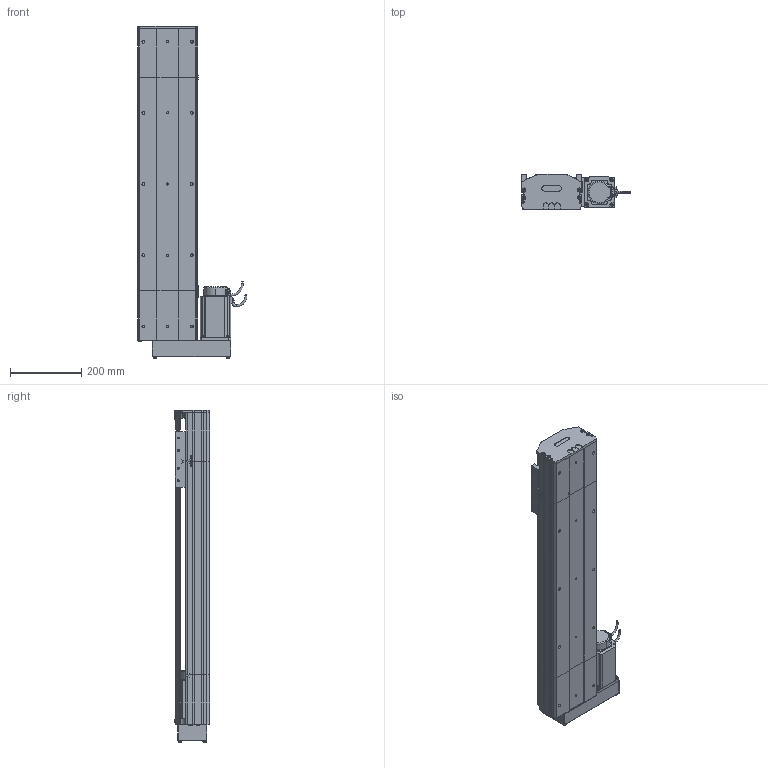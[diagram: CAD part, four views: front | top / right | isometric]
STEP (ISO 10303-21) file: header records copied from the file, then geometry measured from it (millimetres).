
FILE_DESCRIPTION (( 'STEP AP214' ), '1' );
FILE_NAME ('D17 TSH BL S600.STEP', '2010-06-30T06:38:29', ( 'Christophe Gaillard' ), ( 'SGA' ), 'SwSTEP 2.0', 'SolidWorks 2010', '' );
FILE_SCHEMA (( 'AUTOMOTIVE_DESIGN' ));
Length unit declared in the file: millimetre
Products named in the file (33): vis M5 L12_Default; guide D17; Chariot D17; chariot D17S_Default; Cvis M5 L70_Default; Conecteur2_Default; codeur 90BLDC125-640; corps 90BLDC125A-640; renvoi BL_Default; Vis M5 L16-2_Default; Conecteur_Default; Moteur motionking 90BLDC125A-640; vis M5 L5_Default; avant 90BLDC125A-640; Arbre+rail head D17; arbre + rail D17 Course 600 ; course 600 D17_Default; D17 TSH BL S600; Tail D17_Default; couvercle D17 course L600_Default; corp D17 600_Default; tete d''axe bas D17; plaque de  bout tail D17_Default; corpl tail D17_Default; couvercle D17_Default; Arbre+rail tail D17; tete d''axe haut D17; head BL_Default; vis M5 L25_Default; vis M5 L8 90°_Default; plaque de  bout BM head D17_Default; couvercle D17 head_Default; corpl head D17 BM_Default
Assembly tree (55 placements, depth 4):
  D17 TSH BL S600
    Tail D17_Default
      tete d''axe haut D17
      vis M5 L12_Default  x4
      vis M5 L8 90°_Default  x2
      vis M5 L25_Default  x2
      tete d''axe bas D17
      plaque de  bout tail D17_Default
      couvercle D17_Default
      corpl tail D17_Default
      Arbre+rail tail D17
    head BL_Default
      couvercle D17 head_Default
      vis M5 L12_Default  x8
      Vis M5 L16-2_Default  x4
      Cvis M5 L70_Default  x2
      plaque de  bout BM head D17_Default
      vis M5 L5_Default  x2
      corpl head D17 BM_Default
      Moteur motionking 90BLDC125A-640
        Conecteur2_Default
        corps 90BLDC125A-640
        Conecteur_Default
        codeur 90BLDC125-640
        avant 90BLDC125A-640
      Arbre+rail head D17
      renvoi BL_Default
    chariot D17S_Default
      guide D17  x2
      vis M5 L12_Default  x4
      Chariot D17
    course 600 D17_Default
      corp D17 600_Default
      couvercle D17 course L600_Default
      arbre + rail D17 Course 600 
Bounding box: 308.95 x 99.7 x 932.7 mm (x, y, z)
Volume: 6699888.3 mm3; surface area: 1667046.7 mm2
Topology: 80 solids, 80 shells, 2239 faces, 5611 edges, 3620 vertices
Faces by surface type: plane 1396, cylinder 566, bspline 136, torus 73, cone 64, sphere 4
Entity records: 72205 total; most frequent: CARTESIAN_POINT 22578, ORIENTED_EDGE 8730, DIRECTION 8186, EDGE_CURVE 4365, LINE 3038, VECTOR 3038, VERTEX_POINT 2866, AXIS2_PLACEMENT_3D 2574
